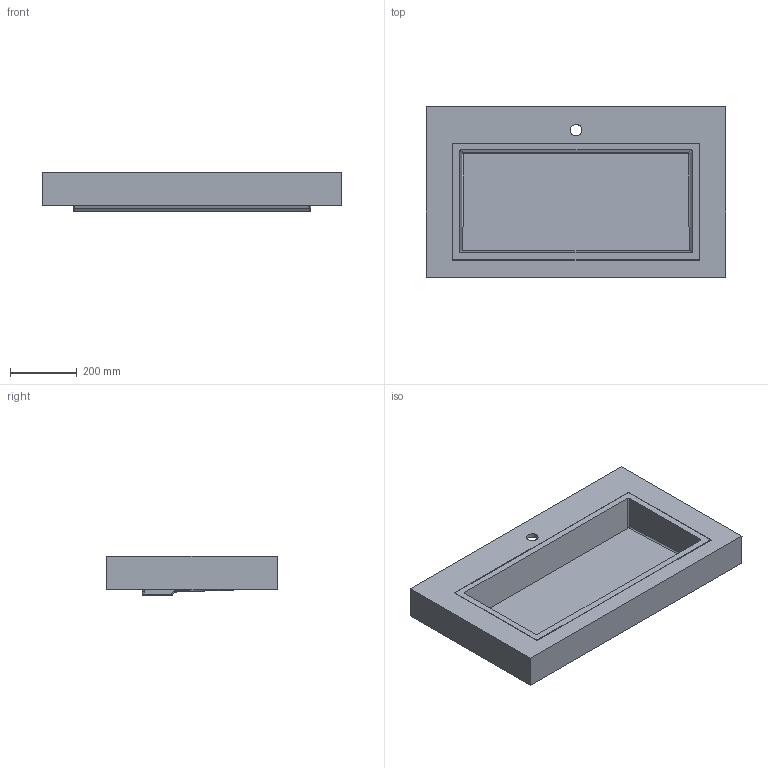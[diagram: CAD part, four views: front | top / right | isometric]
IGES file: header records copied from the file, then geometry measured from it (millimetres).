
Start section: Data from Parasolid IGES Translator 19.0.9, Copyright(c) 2006 Siemens PL M Software. All Rights Reserved.
Global section: file name: noorth-top-H 10 D 51,3 W 90_6535.igs; native system: By Siemens PLM Incorporated; preprocessor: XPlus GENERIC/IGES 19.0.9; author: Noname; organization: Noname; date: 20200603.094605; units: metre
Bounding box: 900 x 512 x 118.64 mm (x, y, z)
Volume: 9648397.3 mm3; surface area: 1729024.7 mm2
Topology: 2 solids, 2 shells, 105 faces, 252 edges, 148 vertices
Faces by surface type: plane 43, cylinder 34, bspline 28
Full cylindrical faces by diameter (mm): 34.9 x1
